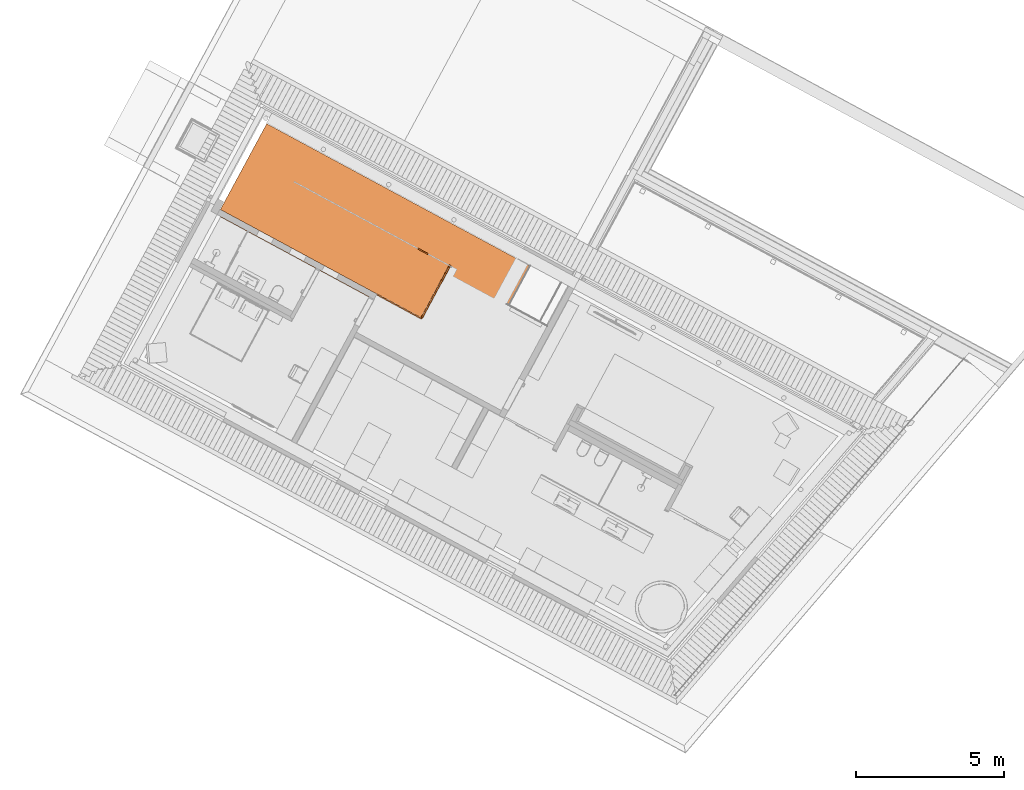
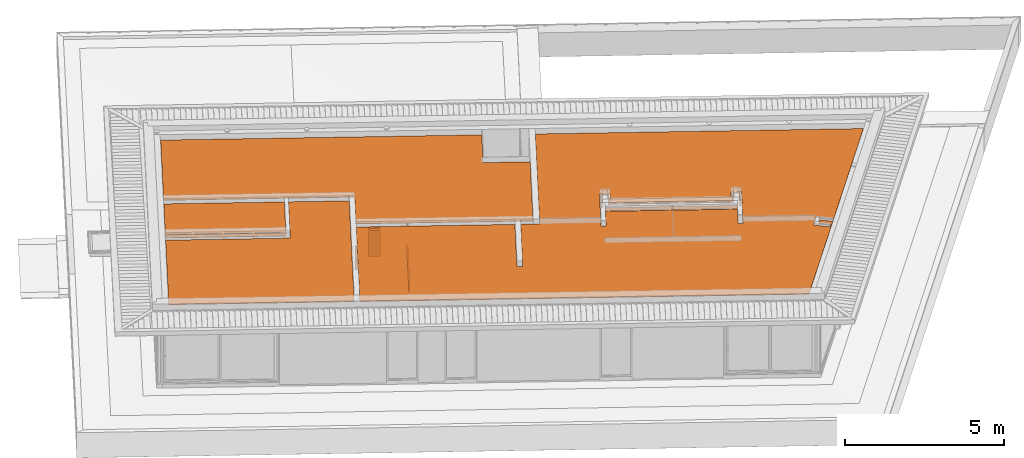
# One storey, part 43 of 48: 5 proxies.
"""IFC2X3 building model written with IfcOpenShell, lengths in metres."""

import ifcopenshell
import ifcopenshell.guid

model = None  # the IFC model being written
_history = None  # IfcOwnerHistory: only IFC2X3 demands one
_inside = {}  # id of a spatial element -> (the spatial element, [elements in it])
_under = {}  # id of a project, library or spatial element -> (it, [spatial elements below it])
_declared = {}  # id of a project -> (the project, [libraries it declares])
_typed = {}  # id of a type object -> (the type object, [elements of that type])
_made_of = {}  # id of a material, layer set ... -> (it, [elements and type objects made of it])


def new_model(schema):
    """Start an empty IFC model of exactly this schema.

    Asked for "IFC4X3", IfcOpenShell would pick the latest addendum, in which some entities
    have other attributes; the version numbers below select the first issue.
    IFC2X3 requires an IfcOwnerHistory on every rooted entity: one is made here for all.
    """
    global model, _history
    if schema == "IFC4X3":
        model = ifcopenshell.file(schema_version=(4, 3, 0, 0))
    else:
        model = ifcopenshell.file(schema=schema)
    _inside.clear()
    _under.clear()
    _declared.clear()
    _typed.clear()
    _made_of.clear()
    _history = None
    if model.schema == "IFC2X3":
        org = make("IfcOrganization", Name="unknown")
        user = make(
            "IfcPersonAndOrganization",
            ThePerson=make("IfcPerson", FamilyName="unknown"),
            TheOrganization=org,
        )
        app = make(
            "IfcApplication",
            ApplicationDeveloper=org,
            Version="unknown",
            ApplicationFullName="unknown",
            ApplicationIdentifier="unknown",
        )
        _history = make(
            "IfcOwnerHistory",
            OwningUser=user,
            OwningApplication=app,
            ChangeAction="ADDED",
            CreationDate=0,
        )
    return model


def make(cls, **values):
    """One entity of the class cls with the attributes given. An attribute that is None is left unset."""
    return model.create_entity(
        cls, **{name: value for name, value in values.items() if value is not None}
    )


def entity(cls, *values):
    """Any entity or typed value of the class cls, its attributes in the order of the schema. None: left unset."""
    e = model.create_entity(cls)
    for i, value in enumerate(values):
        if value is not None:
            e[i] = value
    return e


def rooted(cls, **values):
    """An entity with a GlobalId (a new one), such as an element, a storey or a relation."""
    return make(cls, GlobalId=ifcopenshell.guid.new(), OwnerHistory=_history, **values)


def si_unit(unit_type, name, prefix=None):
    """IfcSIUnit, for example si_unit("LENGTHUNIT", "METRE", prefix="MILLI")."""
    return make("IfcSIUnit", UnitType=unit_type, Prefix=prefix, Name=name)


def converted_unit(unit_type, name, factor, base, dimensions=None, offset=None):
    """IfcConversionBasedUnit, such as the inch: factor (a typed value) times the base unit."""
    return make(
        "IfcConversionBasedUnit"
        if offset is None
        else "IfcConversionBasedUnitWithOffset",
        ConversionOffset=offset,
        Dimensions=None
        if dimensions is None
        else entity("IfcDimensionalExponents", *dimensions),
        UnitType=unit_type,
        Name=name,
        ConversionFactor=make(
            "IfcMeasureWithUnit", ValueComponent=factor, UnitComponent=base
        ),
    )


def derived_unit(unit_type, elements):
    """IfcDerivedUnit: a product of units, each with its exponent."""
    return make(
        "IfcDerivedUnit",
        Elements=[
            make("IfcDerivedUnitElement", Unit=unit, Exponent=power)
            for unit, power in elements
        ],
        UnitType=unit_type,
    )


def money_unit(currency):
    """IfcMonetaryUnit."""
    return make("IfcMonetaryUnit", Currency=currency)


def assignment(units):
    """IfcUnitAssignment: the units of a project."""
    return None if units is None else make("IfcUnitAssignment", Units=units)


def point(xyz):
    """IfcCartesianPoint."""
    return None if xyz is None else make("IfcCartesianPoint", Coordinates=xyz)


def direction(xyz):
    """IfcDirection."""
    return None if xyz is None else make("IfcDirection", DirectionRatios=xyz)


def frame(location, z_axis=None, x_axis=None):
    """IfcAxis2Placement3D, a coordinate frame: its origin and axes. An axis left out is left unset."""
    return make(
        "IfcAxis2Placement3D",
        Location=point(location),
        Axis=direction(z_axis),
        RefDirection=direction(x_axis),
    )


def origin_with_axes():
    """The frame at (0, 0, 0) with the z axis (0, 0, 1) and the x axis (1, 0, 0) written out."""
    return frame((0.0, 0.0, 0.0), z_axis=(0.0, 0.0, 1.0), x_axis=(1.0, 0.0, 0.0))


def place(relative_to, where):
    """IfcLocalPlacement: puts the frame where relative to a parent placement (None: the world)."""
    return make(
        "IfcLocalPlacement", PlacementRelTo=relative_to, RelativePlacement=where
    )


def context(
    kind, dimensions, precision=None, world=None, true_north=None, identifier=None
):
    """IfcGeometricRepresentationContext, for example the 3D "Model" context."""
    return make(
        "IfcGeometricRepresentationContext",
        ContextIdentifier=identifier,
        ContextType=kind,
        CoordinateSpaceDimension=dimensions,
        Precision=precision,
        WorldCoordinateSystem=world,
        TrueNorth=true_north,
    )


def subcontext(parent, identifier, kind, view, scale=None):
    """IfcGeometricRepresentationSubContext, for example "Body" below "Model"."""
    return make(
        "IfcGeometricRepresentationSubContext",
        ContextIdentifier=identifier,
        ContextType=kind,
        ParentContext=parent,
        TargetScale=scale,
        TargetView=view,
    )


def project(units=None, contexts=None):
    """IfcProject with its units and contexts."""
    return rooted(
        "IfcProject",
        Name="project",
        RepresentationContexts=contexts,
        UnitsInContext=assignment(units),
    )


def spatial(cls, under=None, at=None, **own):
    """A site, building, storey or space (cls), placed at a placement, below another one or the project."""
    s = rooted(cls, ObjectPlacement=at, **own)
    if under is not None:
        _under.setdefault(under.id(), (under, []))[1].append(s)
    return s


def faces_of(points, faces, orient=None, outer=None):
    """IfcFace entities. A face is a list of loops; a loop is a list of indices into points, from 0.

    orient and outer hold one flag for each loop. By default every Orientation is true, the
    first loop of a face is its IfcFaceOuterBound and the others are IfcFaceBound.
    """
    made = []
    for i, loops in enumerate(faces):
        bounds = []
        for j, loop in enumerate(loops):
            is_outer = j == 0 if outer is None else outer[i][j]
            bounds.append(
                make(
                    "IfcFaceOuterBound" if is_outer else "IfcFaceBound",
                    Bound=make("IfcPolyLoop", Polygon=[points[k] for k in loop]),
                    Orientation=True if orient is None else orient[i][j],
                )
            )
        made.append(make("IfcFace", Bounds=bounds))
    return made


def faceted_brep(points, faces, orient=None, outer=None, voids=None):
    """IfcFacetedBrep: a solid bounded by flat faces; with voids (closed shells), ...WithVoids."""
    shared = [point(p) for p in points]
    hull = make("IfcClosedShell", CfsFaces=faces_of(shared, faces, orient, outer))
    if voids is None:
        return make("IfcFacetedBrep", Outer=hull)
    return make(
        "IfcFacetedBrepWithVoids",
        Outer=hull,
        Voids=[
            make(cls, CfsFaces=faces_of(shared, fs, o, b)) for cls, fs, o, b in voids
        ],
    )


def shape(context_of_items, identifier, shape_type, items):
    """IfcShapeRepresentation: the items that make up one representation, for example the "Body"."""
    return make(
        "IfcShapeRepresentation",
        ContextOfItems=context_of_items,
        RepresentationIdentifier=identifier,
        RepresentationType=shape_type,
        Items=items,
    )


def material(Name=None, Category=None):
    """IfcMaterial."""
    return make("IfcMaterial", Name=Name, Category=Category)


def material_list(materials):
    """IfcMaterialList."""
    return make("IfcMaterialList", Materials=materials)


def made_of(thing, what):
    """Note that an element or type object is made of a material, layer set ...; save() writes the relation."""
    if what is not None:
        _made_of.setdefault(what.id(), (what, []))[1].append(thing)
    return thing


def type_object(cls, material=None, **own):
    """A type object (cls), such as IfcWallType, which elements share."""
    return made_of(rooted(cls, **own), material)


def element(
    cls,
    number,
    at=None,
    inside=None,
    cuts=None,
    type_object=None,
    material=None,
    context=None,
    identifier="Body",
    shape_type=None,
    held_by="IfcProductDefinitionShape",
    body=None,
    shapes=None,
    **own,
):
    """One element of the class cls, such as IfcWall. Its Tag is "e" and its number.

    at: its placement. inside: the storey or other place that contains it. cuts: it is an
    opening in that element (IfcRelVoidsElement). A single representation is given by context,
    identifier, shape_type and body (its items); several are given by shapes. held_by: the class
    of the entity that holds the representations. save() writes the other relations.
    """
    e = rooted(cls, Tag="e%d" % number, ObjectPlacement=at, **own)
    if body is not None:
        shapes = [shape(context, identifier, shape_type, body)]
    if shapes is not None:
        e.Representation = make(held_by, Representations=shapes)
    if inside is not None:
        _inside.setdefault(inside.id(), (inside, []))[1].append(e)
    if cuts is not None:
        rooted(
            "IfcRelVoidsElement", RelatingBuildingElement=cuts, RelatedOpeningElement=e
        )
    if type_object is not None:
        _typed.setdefault(type_object.id(), (type_object, []))[1].append(e)
    return made_of(e, material)


def aggregate(whole, parts):
    """IfcRelAggregates: a whole, such as a stair, and the parts it consists of."""
    return rooted("IfcRelAggregates", RelatingObject=whole, RelatedObjects=parts)


def save(model, path):
    """Write the relations noted so far, then the file.

    IfcRelAggregates (storeys below a building ...), IfcRelContainedInSpatialStructure (elements
    in a storey), IfcRelDefinesByType, IfcRelAssociatesMaterial and IfcRelDeclares: one each for
    every whole, place, type object, material and project.
    """
    for whole, parts in _under.values():
        aggregate(whole, parts)
    for where, things in _inside.values():
        rooted(
            "IfcRelContainedInSpatialStructure",
            RelatedElements=things,
            RelatingStructure=where,
        )
    for kind, things in _typed.values():
        rooted("IfcRelDefinesByType", RelatedObjects=things, RelatingType=kind)
    for what, things in _made_of.values():
        rooted("IfcRelAssociatesMaterial", RelatedObjects=things, RelatingMaterial=what)
    for by, libraries in _declared.values():
        rooted("IfcRelDeclares", RelatingContext=by, RelatedDefinitions=libraries)
    model.write(path)


model = new_model("IFC2X3")

# Units and contexts
model_context = context("Model", 3, precision=1e-05, world=origin_with_axes(), true_north=direction((0.0, 1.0)))
body_context = subcontext(model_context, "Body", "Model", "MODEL_VIEW")
ifc_project = project(units=[si_unit("LENGTHUNIT", "METRE"), si_unit("AREAUNIT", "SQUARE_METRE"), si_unit("VOLUMEUNIT", "CUBIC_METRE"), converted_unit("PLANEANGLEUNIT", "DEGREE", entity("IfcPlaneAngleMeasure", 0.0174532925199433), si_unit("PLANEANGLEUNIT", "RADIAN"), dimensions=[0, 0, 0, 0, 0, 0, 0]), money_unit("EUR"), converted_unit("TIMEUNIT", "Year", entity("IfcTimeMeasure", 31556926.0), si_unit("TIMEUNIT", "SECOND"), dimensions=[0, 0, 1, 0, 0, 0, 0]), si_unit("MASSUNIT", "GRAM", prefix="KILO"), si_unit("THERMODYNAMICTEMPERATUREUNIT", "DEGREE_CELSIUS"), si_unit("LUMINOUSINTENSITYUNIT", "LUMEN"), si_unit("ENERGYUNIT", "JOULE", prefix="MEGA"), derived_unit("THERMALCONDUCTANCEUNIT", [(si_unit("POWERUNIT", "WATT"), 1), (si_unit("LENGTHUNIT", "METRE"), -1), (si_unit("THERMODYNAMICTEMPERATUREUNIT", "KELVIN"), -1)]), derived_unit("SPECIFICHEATCAPACITYUNIT", [(si_unit("ENERGYUNIT", "JOULE"), 1), (si_unit("MASSUNIT", "GRAM", prefix="KILO"), -1), (si_unit("THERMODYNAMICTEMPERATUREUNIT", "KELVIN"), -1)]), derived_unit("MASSDENSITYUNIT", [(si_unit("MASSUNIT", "GRAM", prefix="KILO"), 1), (si_unit("VOLUMEUNIT", "CUBIC_METRE"), -1)])], contexts=[model_context])

# Site, building, storey
site_placement = place(None, frame((-3.949935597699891, 1.740105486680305, 0.0), z_axis=(0.0, 0.0, 1.0), x_axis=(0.8799804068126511, -0.475009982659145, 0.0)))
site = spatial("IfcSite", under=ifc_project, at=site_placement, Name="Gelände", CompositionType="ELEMENT")
building_placement = place(site_placement, origin_with_axes())
building = spatial("IfcBuilding", under=site, at=building_placement, Name="Gebäude", CompositionType="ELEMENT")
storey_placement = place(building_placement, frame((0.0, 0.0, 4.55), z_axis=(0.0, 0.0, 1.0), x_axis=(1.0, 0.0, 0.0)))
storey = spatial("IfcBuildingStorey", under=building, at=storey_placement, Name="Staffelgeschoss", CompositionType="ELEMENT", Elevation=4.55)

# Proxies
ifc_material_1 = material(Name="Gipskarton")
building_element_proxy_type_1 = type_object("IfcBuildingElementProxyType", Name="Gipskarton 15", PredefinedType="NOTDEFINED")
proxy_1_placement = place(storey_placement, frame((15.6924954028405, 10.64280060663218, 2.749999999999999), z_axis=(0.0, 0.0, 1.0), x_axis=(1.0, 0.0, 0.0)))
element("IfcBuildingElementProxy", 1, at=proxy_1_placement, inside=storey, type_object=building_element_proxy_type_1, material=ifc_material_1, Name="Decke002", context=body_context, shape_type="Brep", body=[
    faceted_brep([(-6.294600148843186, -5.349739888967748, 0.0), (-6.294600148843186, -5.174763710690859, 0.0), (-6.294600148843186, -5.174763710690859, 0.01500000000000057), (-6.294600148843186, -5.349739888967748, 0.01500000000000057), (-10.08001299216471, -5.349739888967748, 0.0), (-10.08001316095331, -5.174739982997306, 0.0), (-10.08001316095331, -5.174739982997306, 0.01500000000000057), (-10.08001299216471, -5.349739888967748, 0.01500000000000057)], [[[0, 1, 2, 3]], [[4, 5, 1, 0]], [[5, 6, 2, 1]], [[3, 2, 6, 7]], [[4, 0, 3, 7]], [[7, 6, 5, 4]]]),
    faceted_brep([(3.750037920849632, -4.265651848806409, 0.01500000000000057), (7.900037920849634, -4.265651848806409, 0.01500000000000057), (7.900037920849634, -4.090651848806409, 0.01500000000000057), (3.750037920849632, -4.090651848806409, 0.01500000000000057), (3.750037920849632, -4.265651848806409, 0.0), (7.900037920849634, -4.265651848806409, 0.0), (7.900037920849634, -4.090651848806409, 0.0), (3.750037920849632, -4.090651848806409, 0.0)], [[[0, 1, 2, 3]], [[4, 5, 1, 0]], [[5, 6, 2, 1]], [[3, 2, 6, 7]], [[4, 0, 3, 7]], [[7, 6, 5, 4]]]),
    faceted_brep([(0.0, -1.515001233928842, 0.01500000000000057), (-0.06368846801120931, -1.515001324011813, 0.01500000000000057), (-0.06368846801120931, -1.505001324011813, 0.01500000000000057), (0.0, -1.505001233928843, 0.01500000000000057), (0.0, 0.0, 0.01500000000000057), (-10.08001815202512, 0.0, 0.01500000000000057), (-10.08001497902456, -3.289764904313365, 0.01500000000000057), (-4.08429979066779, -3.289764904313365, 0.01500000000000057), (-4.08429979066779, -3.489764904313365, 0.01500000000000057), (-4.08429979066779, -4.749739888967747, 0.01500000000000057), (1.474997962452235, -4.749739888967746, 0.01500000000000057), (1.474997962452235, -1.515000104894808, 0.01500000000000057), (-0.06368846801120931, -1.515001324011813, 0.0), (0.0, -1.515001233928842, 0.0), (-0.06368846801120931, -1.505001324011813, 0.0), (0.0, -1.505001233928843, 0.0), (0.0, 0.0, 0.0), (-10.08001815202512, 0.0, 0.0), (-10.08001497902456, -3.289764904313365, 0.0), (-4.08429979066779, -3.289764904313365, 0.0), (-4.08429979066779, -3.489764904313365, 0.0), (-4.08429979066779, -4.749739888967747, 0.0), (1.474997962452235, -4.749739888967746, 0.0), (1.474997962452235, -1.515000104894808, 0.0)], [[[0, 1, 2, 3, 4, 5, 6, 7, 8, 9, 10, 11]], [[12, 1, 0, 13]], [[14, 2, 1, 12]], [[14, 15, 3, 2]], [[4, 3, 15, 16]], [[5, 4, 16, 17]], [[17, 18, 6, 5]], [[19, 7, 6, 18]], [[19, 20, 8, 7]], [[20, 21, 9, 8]], [[21, 22, 10, 9]], [[11, 10, 22, 23]], [[23, 13, 0, 11]], [[14, 12, 13, 23, 22, 21, 20, 19, 18, 17, 16, 15]]]),
    faceted_brep([(-4.259299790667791, -3.489764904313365, 0.0), (-6.169600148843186, -3.489764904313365, 0.0), (-6.169600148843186, -3.489764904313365, 0.01500000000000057), (-4.259299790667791, -3.489764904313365, 0.01500000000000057), (-6.169600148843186, -5.474739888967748, 0.0), (-6.169600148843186, -5.462239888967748, 0.0), (-4.259299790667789, -9.002808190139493, 0.0), (-10.08000946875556, -9.002808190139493, 0.0), (-10.08001287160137, -5.474739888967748, 0.0), (-6.169600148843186, -5.462239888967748, 0.01500000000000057), (-6.169600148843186, -5.474739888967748, 0.01500000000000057), (-10.08001287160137, -5.474739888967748, 0.01500000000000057), (-10.08000946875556, -9.002808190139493, 0.01500000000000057), (-4.259299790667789, -9.002808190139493, 0.01500000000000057)], [[[0, 1, 2, 3]], [[4, 5, 1, 0, 6, 7, 8]], [[5, 9, 2, 1]], [[3, 2, 9, 10, 11, 12, 13]], [[6, 0, 3, 13]], [[10, 9, 5, 4]], [[7, 6, 13, 12]], [[12, 11, 8, 7]], [[8, 11, 10, 4]]]),
    faceted_brep([(-10.0800147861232, -3.489764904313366, 0.01500000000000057), (-10.08001318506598, -5.149739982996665, 0.01500000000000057), (-6.294600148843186, -5.149763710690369, 0.01500000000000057), (-6.294600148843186, -3.489764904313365, 0.01500000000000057), (-10.0800147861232, -3.489764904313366, 0.0), (-10.08001318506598, -5.149739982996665, 0.0), (-6.294600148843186, -5.149763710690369, 0.0), (-6.294600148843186, -3.489764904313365, 0.0)], [[[0, 1, 2, 3]], [[4, 5, 1, 0]], [[5, 6, 2, 1]], [[3, 2, 6, 7]], [[0, 3, 7, 4]], [[7, 6, 5, 4]]]),
    faceted_brep([(7.975037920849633, -3.91565184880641, 0.01500000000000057), (7.975037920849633, -4.090651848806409, 0.01500000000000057), (8.025037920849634, -4.090651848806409, 0.01499999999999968), (8.025037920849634, -3.36565184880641, 0.01500000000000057), (7.750037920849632, -3.365651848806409, 0.01500000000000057), (7.750037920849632, -3.85315184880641, 0.01500000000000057), (7.750037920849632, -3.865651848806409, 0.01500000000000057), (3.912537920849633, -3.865651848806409, 0.01500000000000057), (3.900037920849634, -3.86565184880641, 0.01500000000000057), (3.900037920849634, -3.365651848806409, 0.01500000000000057), (3.625037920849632, -3.365651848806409, 0.01500000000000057), (3.625037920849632, -4.090651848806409, 0.01500000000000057), (3.675037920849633, -4.090651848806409, 0.01500000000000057), (3.675037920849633, -3.91565184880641, 0.01500000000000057), (3.675037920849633, -3.41565184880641, 0.01500000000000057), (3.850037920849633, -3.41565184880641, 0.01500000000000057), (3.850037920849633, -3.91565184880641, 0.01500000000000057), (7.800037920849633, -3.91565184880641, 0.01500000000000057), (7.800037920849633, -3.41565184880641, 0.01500000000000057), (7.975037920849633, -3.41565184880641, 0.01500000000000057), (7.975037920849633, -3.91565184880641, 0.0), (7.975037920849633, -4.090651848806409, 0.0), (8.025037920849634, -4.090651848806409, 0.0), (8.025037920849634, -3.36565184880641, 0.0), (7.750037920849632, -3.365651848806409, 0.0), (7.750037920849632, -3.85315184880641, 0.0), (7.750037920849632, -3.865651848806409, 0.0), (3.912537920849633, -3.865651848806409, 0.0), (3.900037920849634, -3.86565184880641, 0.0), (3.900037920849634, -3.365651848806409, 0.0), (3.625037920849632, -3.365651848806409, 0.0), (3.625037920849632, -4.090651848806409, 0.0), (3.675037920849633, -4.090651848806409, 0.0), (3.675037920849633, -3.91565184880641, 0.0), (3.675037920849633, -3.41565184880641, 0.0), (3.850037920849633, -3.41565184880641, 0.0), (3.850037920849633, -3.91565184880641, 0.0), (7.800037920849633, -3.91565184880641, 0.0), (7.800037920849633, -3.41565184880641, 0.0), (7.975037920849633, -3.41565184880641, 0.0)], [[[0, 1, 2, 3, 4, 5, 6, 7, 8, 9, 10, 11, 12, 13, 14, 15, 16, 17, 18, 19]], [[20, 21, 1, 0]], [[21, 22, 2, 1]], [[3, 2, 22, 23]], [[4, 3, 23, 24]], [[5, 4, 24, 25]], [[6, 5, 25, 26]], [[27, 7, 6, 26]], [[8, 7, 27, 28]], [[28, 29, 9, 8]], [[30, 10, 9, 29]], [[11, 10, 30, 31]], [[12, 11, 31, 32]], [[13, 12, 32, 33]], [[34, 14, 13, 33]], [[35, 15, 14, 34]], [[36, 16, 15, 35]], [[36, 37, 17, 16]], [[38, 18, 17, 37]], [[39, 19, 18, 38]], [[20, 0, 19, 39]], [[23, 22, 21, 20, 39, 38, 37, 36, 35, 34, 33, 32, 31, 30, 29, 28, 27, 26, 25, 24]]]),
    faceted_brep([(8.050037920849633, -5.090651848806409, 0.01500000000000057), (8.050037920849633, -5.090651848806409, 0.0), (7.900037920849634, -5.090651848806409, 0.0), (7.900037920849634, -5.090651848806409, 0.01500000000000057), (8.050037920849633, -3.35315184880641, 0.01500000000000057), (8.050037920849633, -3.35315184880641, 0.0), (1.075999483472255, -7.224739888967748, 0.0), (1.075999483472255, -4.924739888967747, 0.0), (1.474997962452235, -4.924739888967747, 0.0), (1.674997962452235, -4.924739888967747, 0.0), (1.674997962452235, 0.0, 0.0), (11.97586896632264, 0.0, 0.0), (10.00957970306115, -9.002808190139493, 0.0), (-4.084299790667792, -9.002808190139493, 0.0), (-4.08429979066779, -4.924739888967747, 0.0), (0.9009994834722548, -4.924739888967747, 0.0), (0.9009994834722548, -7.224739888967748, 0.0), (10.45487401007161, -4.948794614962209, 0.0), (10.86705554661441, -5.038818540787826, 0.0), (10.89479474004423, -4.911812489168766, 0.0), (10.37026169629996, -4.797250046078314, 0.0), (10.35560715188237, -4.794049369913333, 0.0), (10.26381656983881, -5.214319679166, 0.0), (10.26061589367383, -5.228974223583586, 0.0), (10.77840977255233, -5.342064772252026, 0.0), (10.80614896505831, -5.215058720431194, 0.0), (10.41536113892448, -5.129707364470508, 0.0), (7.900037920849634, -4.29065184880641, 0.0), (8.050037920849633, -3.340651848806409, 0.0), (7.737537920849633, -3.340651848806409, 0.0), (7.725037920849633, -3.340651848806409, 0.0), (7.725037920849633, -3.840651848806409, 0.0), (3.925037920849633, -3.840651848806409, 0.0), (3.925037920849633, -3.340651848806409, 0.0), (3.912537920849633, -3.340651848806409, 0.0), (3.612537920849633, -3.340651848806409, 0.0), (3.600037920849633, -3.340651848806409, 0.0), (3.600037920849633, -5.090651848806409, 0.0), (3.750037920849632, -5.090651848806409, 0.0), (3.750037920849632, -4.29065184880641, 0.0), (7.900037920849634, -4.29065184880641, 0.01500000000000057), (1.674997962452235, -4.924739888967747, 0.01500000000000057), (1.474997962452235, -4.924739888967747, 0.01500000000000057), (1.075999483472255, -4.924739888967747, 0.01500000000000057), (1.075999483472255, -7.224739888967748, 0.01500000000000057), (0.9009994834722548, -7.224739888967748, 0.01500000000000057), (0.9009994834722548, -4.924739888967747, 0.01500000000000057), (-4.08429979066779, -4.924739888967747, 0.01500000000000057), (-4.084299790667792, -9.002808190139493, 0.01500000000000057), (10.00957970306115, -9.002808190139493, 0.01500000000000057), (11.97586896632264, 0.0, 0.01500000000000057), (1.674997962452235, 0.0, 0.01500000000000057), (10.89479474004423, -4.911812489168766, 0.01500000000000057), (10.86705554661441, -5.038818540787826, 0.01500000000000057), (10.45487401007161, -4.948794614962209, 0.01500000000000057), (10.41536113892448, -5.129707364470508, 0.01500000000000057), (10.80614896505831, -5.215058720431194, 0.01500000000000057), (10.77840977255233, -5.342064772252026, 0.01500000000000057), (10.26061589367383, -5.228974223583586, 0.01500000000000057), (10.26381656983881, -5.214319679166, 0.01500000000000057), (10.35560715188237, -4.794049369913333, 0.01500000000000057), (10.37026169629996, -4.797250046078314, 0.01500000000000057), (3.750037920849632, -4.29065184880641, 0.01500000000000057), (3.750037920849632, -5.090651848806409, 0.01500000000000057), (3.600037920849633, -5.090651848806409, 0.01500000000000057), (3.600037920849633, -3.340651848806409, 0.01500000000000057), (3.612537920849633, -3.340651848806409, 0.01500000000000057), (3.912537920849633, -3.340651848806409, 0.01500000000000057), (3.925037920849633, -3.340651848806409, 0.01500000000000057), (3.925037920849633, -3.840651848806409, 0.01500000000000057), (7.725037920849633, -3.840651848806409, 0.01500000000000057), (7.725037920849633, -3.340651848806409, 0.01500000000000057), (7.737537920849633, -3.340651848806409, 0.01500000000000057), (8.050037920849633, -3.340651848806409, 0.01500000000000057)], [[[0, 1, 2, 3]], [[4, 5, 1, 0]], [[6, 7, 8, 9, 10, 11, 12, 13, 14, 15, 16], [17, 18, 19, 20, 21, 22, 23, 24, 25, 26], [27, 2, 1, 5, 28, 29, 30, 31, 32, 33, 34, 35, 36, 37, 38, 39]], [[2, 27, 40, 3]], [[41, 42, 43, 44, 45, 46, 47, 48, 49, 50, 51], [52, 53, 54, 55, 56, 57, 58, 59, 60, 61], [0, 3, 40, 62, 63, 64, 65, 66, 67, 68, 69, 70, 71, 72, 73, 4]], [[28, 5, 4, 73]], [[44, 43, 7, 6]], [[7, 43, 42, 8]], [[9, 8, 42, 41]], [[51, 10, 9, 41]], [[11, 10, 51, 50]], [[50, 49, 12, 11]], [[49, 48, 13, 12]], [[48, 47, 14, 13]], [[14, 47, 46, 15]], [[16, 15, 46, 45]], [[16, 45, 44, 6]], [[17, 54, 53, 18]], [[52, 19, 18, 53]], [[19, 52, 61, 20]], [[21, 20, 61, 60]], [[21, 60, 59, 22]], [[23, 22, 59, 58]], [[23, 58, 57, 24]], [[57, 56, 25, 24]], [[56, 55, 26, 25]], [[55, 54, 17, 26]], [[28, 73, 72, 29]], [[30, 29, 72, 71]], [[30, 71, 70, 31]], [[32, 31, 70, 69]], [[33, 32, 69, 68]], [[68, 67, 34, 33]], [[35, 34, 67, 66]], [[36, 35, 66, 65]], [[37, 36, 65, 64]], [[38, 37, 64, 63]], [[38, 63, 62, 39]], [[62, 40, 27, 39]]]),
])
ifc_material_2 = material(Name="Metall, Stahl lackiert")
ifc_material_3 = material(Name="Glas, Normalglas-50% durchlässig")
ifc_material_list_1 = material_list([ifc_material_2, ifc_material_2, ifc_material_2, ifc_material_2, ifc_material_2, ifc_material_3])
building_element_proxy_type_2 = type_object("IfcBuildingElementProxyType", Name="Geländerart", PredefinedType="NOTDEFINED")
proxy_2_placement = place(storey_placement, frame((7.6330094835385, 8.87778210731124, 0.0), z_axis=(0.0, 0.0, 1.0), x_axis=(1.0, 0.0, 0.0)))
element("IfcBuildingElementProxy", 2, at=proxy_2_placement, inside=storey, type_object=building_element_proxy_type_2, material=ifc_material_list_1, Name="Geländer-005", context=body_context, shape_type="Brep", body=[
    faceted_brep([(5.662000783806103, 0.4398704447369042, 0.0), (5.702000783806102, 0.4398704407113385, 0.0), (5.702000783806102, 0.4398704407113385, 0.9000000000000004), (5.662000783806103, 0.4398704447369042, 0.9000000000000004), (5.662000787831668, 0.4798704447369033, 0.0), (5.702000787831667, 0.4798704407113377, 0.0), (5.702000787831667, 0.4798704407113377, 0.9000000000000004), (5.662000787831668, 0.4798704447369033, 0.9000000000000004)], [[[0, 1, 2, 3]], [[0, 4, 5, 1]], [[1, 5, 6, 2]], [[3, 2, 6, 7]], [[4, 0, 3, 7]], [[5, 4, 7, 6]]]),
    faceted_brep([(5.702000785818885, 0.4598704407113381, 0.9000000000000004), (5.702000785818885, 0.4598704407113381, 0.8600000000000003), (5.702000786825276, 0.4698704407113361, 0.8600000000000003), (5.702000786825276, 0.4698704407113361, 0.0), (5.702000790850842, 0.509870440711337, 0.0), (5.702000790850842, 0.509870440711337, 0.9000000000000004), (5.662000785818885, 0.4598704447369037, 0.9000000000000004), (5.662000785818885, 0.4598704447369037, 0.8600000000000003), (5.662000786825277, 0.4698704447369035, 0.8600000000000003), (5.662000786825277, 0.4698704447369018, 0.0), (5.662000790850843, 0.5098704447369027, 0.0), (5.662000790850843, 0.5098704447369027, 0.9000000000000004)], [[[0, 1, 2, 3, 4, 5]], [[0, 6, 7, 1]], [[1, 7, 8, 2]], [[2, 8, 9, 3]], [[4, 3, 9, 10]], [[11, 5, 4, 10]], [[6, 0, 5, 11]], [[7, 6, 11, 10, 9, 8]]]),
    faceted_brep([(5.662000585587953, -1.529722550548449, 0.0), (5.702000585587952, -1.529722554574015, 0.0), (5.702000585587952, -1.529722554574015, 0.9000000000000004), (5.662000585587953, -1.529722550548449, 0.9000000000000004), (5.662000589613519, -1.48972255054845, 0.0), (5.702000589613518, -1.489722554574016, 0.0), (5.702000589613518, -1.489722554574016, 0.9000000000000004), (5.662000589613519, -1.48972255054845, 0.9000000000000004)], [[[0, 1, 2, 3]], [[0, 4, 5, 1]], [[1, 5, 6, 2]], [[3, 2, 6, 7]], [[4, 0, 3, 7]], [[5, 4, 7, 6]]]),
    faceted_brep([(5.662000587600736, -1.50972255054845, 0.9000000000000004), (5.662000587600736, -1.50972255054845, 0.8600000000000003), (5.662000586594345, -1.519722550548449, 0.8600000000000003), (5.662000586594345, -1.519722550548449, 0.0), (5.662000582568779, -1.559722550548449, 0.0), (5.662000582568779, -1.559722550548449, 0.9000000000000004), (5.702000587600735, -1.509722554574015, 0.9000000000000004), (5.702000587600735, -1.509722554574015, 0.8600000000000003), (5.702000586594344, -1.519722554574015, 0.8600000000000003), (5.702000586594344, -1.519722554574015, 0.0), (5.702000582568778, -1.559722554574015, 0.0), (5.702000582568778, -1.559722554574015, 0.9000000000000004)], [[[0, 1, 2, 3, 4, 5]], [[0, 6, 7, 1]], [[1, 7, 8, 2]], [[2, 8, 9, 3]], [[4, 3, 9, 10]], [[11, 5, 4, 10]], [[6, 0, 5, 11]], [[7, 6, 11, 10, 9, 8]]]),
    faceted_brep([(5.662000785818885, 0.4598704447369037, 0.9000000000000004), (5.662000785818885, 0.4598704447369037, 0.8600000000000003), (5.662000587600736, -1.50972255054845, 0.8600000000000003), (5.662000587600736, -1.50972255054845, 0.9000000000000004), (5.702000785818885, 0.4598704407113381, 0.9000000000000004), (5.702000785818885, 0.4598704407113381, 0.8600000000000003), (5.702000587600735, -1.509722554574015, 0.8600000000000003), (5.702000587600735, -1.509722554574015, 0.9000000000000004)], [[[0, 1, 2, 3]], [[0, 4, 5, 1]], [[1, 5, 6, 2]], [[3, 2, 6, 7]], [[4, 0, 3, 7]], [[5, 4, 7, 6]]]),
    faceted_brep([(5.692000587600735, -1.509722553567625, 0.0), (5.692000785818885, 0.4598704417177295, 0.0), (5.692000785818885, 0.4598704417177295, 0.8000000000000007), (5.692000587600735, -1.509722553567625, 0.8000000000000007), (5.672000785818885, 0.4598704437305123, 0.0), (5.672000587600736, -1.509722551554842, 0.0), (5.672000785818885, 0.4598704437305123, 0.8000000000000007), (5.672000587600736, -1.509722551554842, 0.8000000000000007)], [[[0, 1, 2, 3]], [[4, 1, 0, 5]], [[6, 2, 1, 4]], [[3, 2, 6, 7]], [[0, 3, 7, 5]], [[6, 4, 5, 7]]]),
])
ifc_material_4 = material(Name="Glas, Normalglas")
ifc_material_list_2 = material_list([ifc_material_2, ifc_material_2, ifc_material_2, ifc_material_2, ifc_material_2, ifc_material_4])
proxy_3_placement = place(storey_placement, frame((11.89277090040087, 1.656058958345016, 0.0), z_axis=(0.0, 0.0, 1.0), x_axis=(0.0, 1.0, 0.0)))
element("IfcBuildingElementProxy", 3, at=proxy_3_placement, inside=storey, type_object=building_element_proxy_type_2, material=ifc_material_list_2, Name="Geländer-005", context=body_context, shape_type="Brep", body=[
    faceted_brep([(5.662000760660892, 0.2098882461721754, 0.0), (5.702000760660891, 0.2098882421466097, 0.0), (5.702000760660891, 0.2098882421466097, 0.9000000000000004), (5.662000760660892, 0.2098882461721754, 0.9000000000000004), (5.662000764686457, 0.2498882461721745, 0.0), (5.702000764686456, 0.2498882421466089, 0.0), (5.702000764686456, 0.2498882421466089, 0.9000000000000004), (5.662000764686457, 0.2498882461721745, 0.9000000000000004)], [[[0, 1, 2, 3]], [[0, 4, 5, 1]], [[1, 5, 6, 2]], [[3, 2, 6, 7]], [[4, 0, 3, 7]], [[5, 4, 7, 6]]]),
    faceted_brep([(5.702000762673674, 0.2298882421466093, 0.9000000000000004), (5.702000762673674, 0.2298882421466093, 0.8600000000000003), (5.702000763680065, 0.2398882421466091, 0.8600000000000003), (5.702000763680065, 0.2398882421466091, 0.0), (5.702000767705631, 0.2798882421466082, 0.0), (5.702000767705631, 0.2798882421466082, 0.9000000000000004), (5.662000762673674, 0.229888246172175, 0.9000000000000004), (5.662000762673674, 0.229888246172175, 0.8600000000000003), (5.662000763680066, 0.239888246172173, 0.8600000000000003), (5.662000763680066, 0.239888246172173, 0.0), (5.662000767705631, 0.2798882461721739, 0.0), (5.662000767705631, 0.2798882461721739, 0.9000000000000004)], [[[0, 1, 2, 3, 4, 5]], [[0, 6, 7, 1]], [[1, 7, 8, 2]], [[2, 8, 9, 3]], [[4, 3, 9, 10]], [[11, 5, 4, 10]], [[6, 0, 5, 11]], [[7, 6, 11, 10, 9, 8]]]),
    faceted_brep([(5.662000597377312, -1.412577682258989, 0.0), (5.702000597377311, -1.412577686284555, 0.0), (5.702000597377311, -1.412577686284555, 0.9000000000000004), (5.662000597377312, -1.412577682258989, 0.9000000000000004), (5.662000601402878, -1.37257768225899, 0.0), (5.702000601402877, -1.372577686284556, 0.0), (5.702000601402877, -1.372577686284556, 0.9000000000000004), (5.662000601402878, -1.37257768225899, 0.9000000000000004)], [[[0, 1, 2, 3]], [[0, 4, 5, 1]], [[1, 5, 6, 2]], [[3, 2, 6, 7]], [[4, 0, 3, 7]], [[5, 4, 7, 6]]]),
    faceted_brep([(5.662000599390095, -1.39257768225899, 0.9000000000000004), (5.662000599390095, -1.39257768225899, 0.8600000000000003), (5.662000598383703, -1.40257768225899, 0.8600000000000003), (5.662000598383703, -1.40257768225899, 0.0), (5.662000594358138, -1.442577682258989, 0.0), (5.662000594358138, -1.442577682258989, 0.9000000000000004), (5.702000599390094, -1.392577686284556, 0.9000000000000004), (5.702000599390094, -1.392577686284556, 0.8600000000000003), (5.702000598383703, -1.402577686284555, 0.8600000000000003), (5.702000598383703, -1.402577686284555, 0.0), (5.702000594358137, -1.442577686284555, 0.0), (5.702000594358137, -1.442577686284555, 0.9000000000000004)], [[[0, 1, 2, 3, 4, 5]], [[0, 6, 7, 1]], [[1, 7, 8, 2]], [[2, 8, 9, 3]], [[4, 3, 9, 10]], [[11, 5, 4, 10]], [[6, 0, 5, 11]], [[7, 6, 11, 10, 9, 8]]]),
    faceted_brep([(5.662000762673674, 0.229888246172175, 0.9000000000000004), (5.662000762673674, 0.229888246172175, 0.8600000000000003), (5.662000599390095, -1.39257768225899, 0.8600000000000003), (5.662000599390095, -1.39257768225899, 0.9000000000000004), (5.702000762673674, 0.2298882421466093, 0.9000000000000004), (5.702000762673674, 0.2298882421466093, 0.8600000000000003), (5.702000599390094, -1.392577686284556, 0.8600000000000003), (5.702000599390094, -1.392577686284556, 0.9000000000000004)], [[[0, 1, 2, 3]], [[0, 4, 5, 1]], [[1, 5, 6, 2]], [[3, 2, 6, 7]], [[4, 0, 3, 7]], [[5, 4, 7, 6]]]),
    faceted_brep([(5.692000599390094, -1.392577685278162, 0.0), (5.692000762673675, 0.2298882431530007, 0.0), (5.692000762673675, 0.2298882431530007, 0.8000000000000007), (5.692000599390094, -1.392577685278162, 0.8000000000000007), (5.672000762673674, 0.2298882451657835, 0.0), (5.672000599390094, -1.39257768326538, 0.0), (5.672000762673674, 0.2298882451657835, 0.8000000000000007), (5.672000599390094, -1.39257768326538, 0.8000000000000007)], [[[0, 1, 2, 3]], [[4, 1, 0, 5]], [[6, 2, 1, 4]], [[3, 2, 6, 7]], [[0, 3, 7, 5]], [[6, 4, 5, 7]]]),
])
proxy_4_placement = place(storey_placement, frame((12.13697142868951, 9.357849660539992, -0.9200000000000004), z_axis=(0.0, 0.0, 1.0), x_axis=(1.0, 0.0, 0.0)))
element("IfcBuildingElementProxy", 4, at=proxy_4_placement, inside=storey, type_object=building_element_proxy_type_2, material=ifc_material_list_1, Name="Geländer-005", context=body_context, shape_type="Brep", body=[
    faceted_brep([(0.02000085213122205, -0.01999914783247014, 0.0), (0.01999914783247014, 0.02000085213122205, 0.0), (0.01999914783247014, 0.02000085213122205, 1.1), (0.02000085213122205, -0.01999914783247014, 1.1), (-0.01999914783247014, -0.02000085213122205, 0.0), (-0.02000085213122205, 0.01999914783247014, 0.0), (-0.02000085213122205, 0.01999914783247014, 1.1), (-0.01999914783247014, -0.02000085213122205, 1.1)], [[[0, 1, 2, 3]], [[0, 4, 5, 1]], [[1, 5, 6, 2]], [[3, 2, 6, 7]], [[4, 0, 3, 7]], [[5, 4, 7, 6]]]),
    faceted_brep([(-8.521493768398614e-07, 0.01999999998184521, 1.1), (-8.521493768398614e-07, 0.01999999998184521, 1.06), (-0.01000085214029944, 0.01999957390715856, 1.06), (-0.01000085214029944, 0.01999957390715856, 0.0), (-0.05000085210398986, 0.01999786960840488, 0.0), (-0.05000085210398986, 0.01999786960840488, 1.1), (8.521493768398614e-07, -0.01999999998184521, 1.1), (8.521493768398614e-07, -0.01999999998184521, 1.06), (-0.009999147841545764, -0.02000042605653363, 1.06), (-0.009999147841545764, -0.02000042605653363, 0.0), (-0.04999914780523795, -0.02000213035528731, 0.0), (-0.04999914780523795, -0.02000213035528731, 1.1)], [[[0, 1, 2, 3, 4, 5]], [[0, 6, 7, 1]], [[1, 7, 8, 2]], [[2, 8, 9, 3]], [[4, 3, 9, 10]], [[11, 5, 4, 10]], [[6, 0, 5, 11]], [[7, 6, 11, 10, 9, 8]]]),
    faceted_brep([(0.3122272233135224, -0.01998669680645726, 0.0), (0.3122255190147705, 0.02001330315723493, 0.0), (0.3122255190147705, 0.02001330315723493, 1.1), (0.3122272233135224, -0.01998669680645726, 1.1), (0.2722272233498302, -0.01998840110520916, 0.0), (0.2722255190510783, 0.02001159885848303, 0.0), (0.2722255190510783, 0.02001159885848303, 1.1), (0.2722272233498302, -0.01998840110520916, 1.1)], [[[0, 1, 2, 3]], [[0, 4, 5, 1]], [[1, 5, 6, 2]], [[3, 2, 6, 7]], [[4, 0, 3, 7]], [[5, 4, 7, 6]]]),
    faceted_brep([(0.2922272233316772, -0.01998754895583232, 1.1), (0.2922272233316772, -0.01998754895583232, 1.06), (0.3022272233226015, -0.01998712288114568, 1.06), (0.3022272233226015, -0.01998712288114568, 0.0), (0.342227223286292, -0.019985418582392, 0.0), (0.342227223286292, -0.019985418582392, 1.1), (0.2922255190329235, 0.02001245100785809, 1.1), (0.2922255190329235, 0.02001245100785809, 1.06), (0.3022255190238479, 0.02001287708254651, 1.06), (0.3022255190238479, 0.02001287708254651, 0.0), (0.3422255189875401, 0.02001458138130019, 0.0), (0.3422255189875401, 0.02001458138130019, 1.1)], [[[0, 1, 2, 3, 4, 5]], [[0, 6, 7, 1]], [[1, 7, 8, 2]], [[2, 8, 9, 3]], [[4, 3, 9, 10]], [[11, 5, 4, 10]], [[6, 0, 5, 11]], [[7, 6, 11, 10, 9, 8]]]),
    faceted_brep([(8.521493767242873e-07, -0.01999999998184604, 1.1), (8.521493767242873e-07, -0.01999999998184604, 1.06), (0.2922272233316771, -0.01998754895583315, 1.06), (0.2922272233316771, -0.01998754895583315, 1.1), (-8.521493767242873e-07, 0.01999999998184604, 1.1), (-8.521493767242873e-07, 0.01999999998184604, 1.06), (0.2922255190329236, 0.02001245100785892, 1.06), (0.2922255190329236, 0.02001245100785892, 1.1)], [[[0, 1, 2, 3]], [[0, 4, 5, 1]], [[1, 5, 6, 2]], [[3, 2, 6, 7]], [[4, 0, 3, 7]], [[5, 4, 7, 6]]]),
    faceted_brep([(0.2922259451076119, 0.01001245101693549, 0.0), (-4.260746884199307e-07, 0.009999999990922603, 0.0), (-4.260746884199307e-07, 0.009999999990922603, 0.9999999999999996), (0.2922259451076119, 0.01001245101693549, 0.9999999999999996), (4.260746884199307e-07, -0.00999999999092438, 0.0), (0.2922267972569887, -0.009987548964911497, 0.0), (4.260746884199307e-07, -0.00999999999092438, 0.9999999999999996), (0.2922267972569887, -0.009987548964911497, 0.9999999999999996)], [[[0, 1, 2, 3]], [[4, 1, 0, 5]], [[6, 2, 1, 4]], [[3, 2, 6, 7]], [[0, 3, 7, 5]], [[6, 4, 5, 7]]]),
])
ifc_material_5 = material(Name="ALLGEMEIN - BAUTEIL")
building_element_proxy_type_3 = type_object("IfcBuildingElementProxyType", Name="ALLGEMEIN - BAUTEIL 50", PredefinedType="NOTDEFINED")
proxy_5_placement = place(storey_placement, frame((13.29501005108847, 9.377794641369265, -0.9499999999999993), z_axis=(0.0, 0.0, 1.0), x_axis=(0.0, -1.0, 0.0)))
element("IfcBuildingElementProxy", 5, at=proxy_5_placement, inside=storey, type_object=building_element_proxy_type_3, material=ifc_material_5, Name="I-Wand040", context=body_context, shape_type="Brep", body=[
    faceted_brep([(0.0, 1.744853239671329e-07, 0.01500001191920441), (0.0, 2.706496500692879e-06, 0.4200000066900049), (6.683220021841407e-08, 0.04999999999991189, 0.4200000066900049), (0.0, 0.05000000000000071, 0.01500001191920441), (2.009733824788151, 6.858575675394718e-06, 0.01500001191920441), (2.009733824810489, 2.005244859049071e-08, 0.4200000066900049), (2.009733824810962, 0.04999999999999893, 0.4200000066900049), (2.009733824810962, 0.04999999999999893, 0.01500001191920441)], [[[0, 1, 2, 3]], [[4, 5, 1, 0]], [[5, 6, 2, 1]], [[3, 2, 6, 7]], [[7, 4, 0, 3]], [[7, 6, 5, 4]]]),
])

save(model, "model.ifc")
